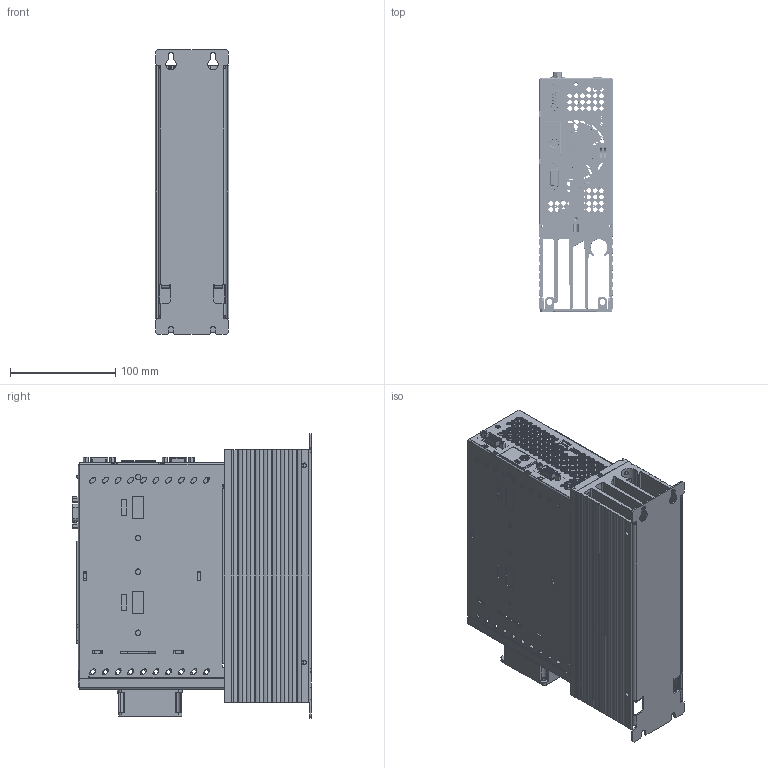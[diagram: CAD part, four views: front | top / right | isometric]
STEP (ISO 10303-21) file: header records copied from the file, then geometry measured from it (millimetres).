
FILE_DESCRIPTION (( 'STEP AP214' ), '1' );
FILE_NAME ('CDB32.008.W_34.005.W_34.006.W.STEP', '2010-09-21T06:14:32', ( 'Bereich' ), ( 'LTi DRiVES GmbH' ), 'SwSTEP 2.0', 'SolidWorks 2008', '' );
FILE_SCHEMA (( 'AUTOMOTIVE_DESIGN' ));
Length unit declared in the file: millimetre
Products named in the file (30): 0931.508.0_Standard; MSTBA_2.5-2-G(1)1_Standard; 0890.508.0_Standard; 0890.507.0_Standard; gmstba_2.5-12-g-7.62_Standard; DISTANZBOLZEN 107749_Standard; MSTBA_2.5-2-G1_Standard; D_SUB_15POLIG_Standard; polig-Stift_Standard; mc_1_5-10-g-3_81_Standard; 1001.546.0-1_Standard; 1001.546.0-1; Steuerprint CDB-1_Standard; Codierschalter_Standard; LÜFTER 60X60X25_Standard; 0931.502.0_Standard; 0931.520.0_Standard; CDB32.008.W_34.005.W_34.006.W; Self-clinching Nut_PMM_PEM S-M4-0 ZI--N; 0890.503.0_Standard; 1001.575.0; LED_3FACH_108455; Steuerprint_Standard; Steuerprint CDB-1; Drucktaster-105902-1_Standard; Drucktaster-105902; LED_3FACH_108455-1_Standard; 0931.500.0-1_Standard; D-SUB 9polig 106256-1_Standard; D-SUB 9polig 106256
Assembly tree (37 placements, depth 4):
  Steuerprint CDB-1_Standard
  CDB32.008.W_34.005.W_34.006.W
    Steuerprint CDB-1
      D-SUB 9polig 106256
        D-SUB 9polig 106256-1_Standard
      MSTBA_2.5-2-G(1)1_Standard
        MSTBA_2.5-2-G1_Standard
      Codierschalter_Standard  x2
      mc_1_5-10-g-3_81_Standard  x2
      Drucktaster-105902
        Drucktaster-105902-1_Standard
      polig-Stift_Standard
      LED_3FACH_108455
        LED_3FACH_108455-1_Standard
      1001.546.0-1
        1001.546.0-1_Standard
      D_SUB_15POLIG_Standard
      Steuerprint_Standard
    0931.502.0_Standard
    gmstba_2.5-12-g-7.62_Standard
    DISTANZBOLZEN 107749_Standard  x6
    1001.575.0
      Self-clinching Nut_PMM_PEM S-M4-0 ZI--N  x4
      0890.503.0_Standard
    LÜFTER 60X60X25_Standard
    0890.508.0_Standard
    0931.520.0_Standard
    0890.507.0_Standard
    0931.508.0_Standard
  0931.500.0-1_Standard
Bounding box: 70 x 226.6 x 270 mm (x, y, z)
Volume: 837925.7 mm3; surface area: 565062.5 mm2
Topology: 31 solids, 31 shells, 5331 faces, 13569 edges, 8598 vertices
Faces by surface type: plane 3424, cylinder 1104, bspline 622, cone 142, sphere 22, torus 17
Entity records: 153131 total; most frequent: CARTESIAN_POINT 32537, ORIENTED_EDGE 21162, DIRECTION 18803, EDGE_CURVE 10581, VECTOR 7187, LINE 7187, VERTEX_POINT 6728, AXIS2_PLACEMENT_3D 5808
